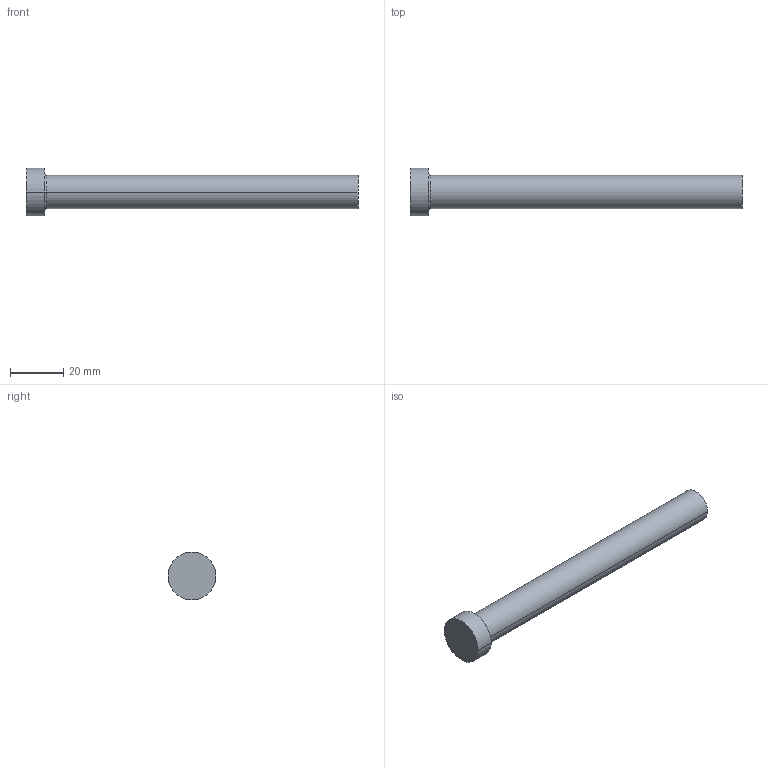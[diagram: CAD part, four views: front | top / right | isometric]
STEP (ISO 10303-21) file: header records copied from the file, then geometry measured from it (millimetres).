
FILE_DESCRIPTION (( 'STEP AP214' ), '1' );
FILE_NAME ('A-12,5x125.STEP', '2020-05-29T16:09:25', ( 'August' ), ( '' ), 'SwSTEP 2.0', 'SolidWorks 2018', '' );
FILE_SCHEMA (( 'AUTOMOTIVE_DESIGN' ));
Length unit declared in the file: millimetre
Products named in the file (1): A-12,5x125
Bounding box: 125 x 18 x 18 mm (x, y, z)
Volume: 16267.6 mm3; surface area: 5525.4 mm2
Topology: 1 solids, 1 shells, 9 faces, 16 edges, 10 vertices
Faces by surface type: cylinder 4, plane 3, torus 2
Entity records: 260 total; most frequent: DIRECTION 48, CARTESIAN_POINT 36, ORIENTED_EDGE 32, AXIS2_PLACEMENT_3D 22, EDGE_CURVE 16, CIRCLE 12, VERTEX_POINT 10, EDGE_LOOP 10
